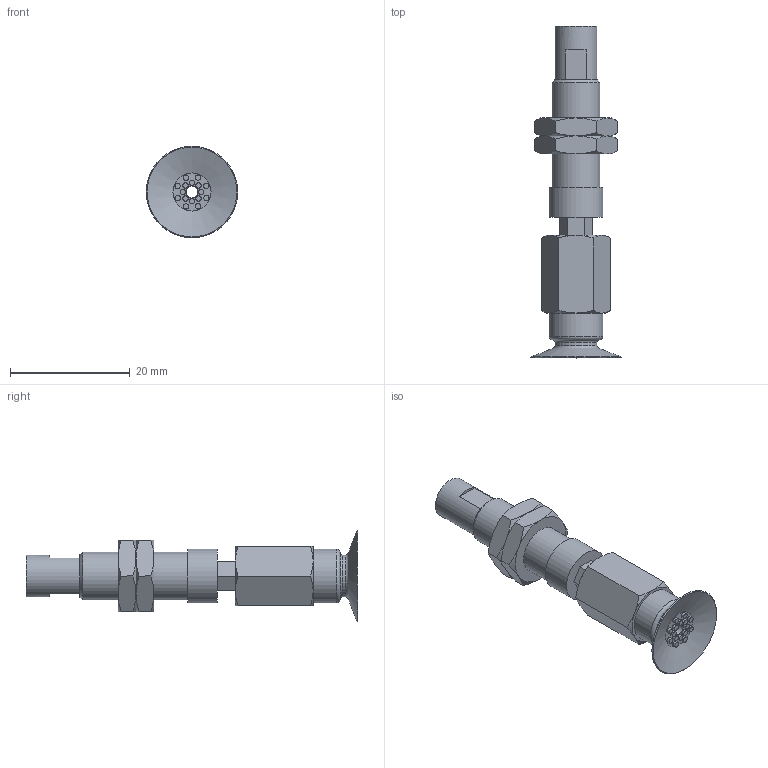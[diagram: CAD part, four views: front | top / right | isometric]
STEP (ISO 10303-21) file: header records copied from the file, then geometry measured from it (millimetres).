
FILE_DESCRIPTION(('STEP AP203'),'1');
FILE_NAME('.stp','2025-08-12T08:09:45',(' '),(' '),'Spatial InterOp 3D',' ',' ');
FILE_SCHEMA(('CONFIG_CONTROL_DESIGN'));
Length unit declared in the file: millimetre
Products named in the file (6): BNABPATH-15A-3-※; NAPATH-10A-3--F; Nut-10A-S; BPAG-15A-※; NAPATH-10A-3--M; ADAPTER
Assembly tree (6 placements, depth 2):
  BNABPATH-15A-3-※
    NAPATH-10A-3--F
    Nut-10A-S  x2
    BPAG-15A-※
    NAPATH-10A-3--M
    ADAPTER
Bounding box: 15.3 x 55.5 x 15.3 mm (x, y, z)
Volume: 3408 mm3; surface area: 4168.1 mm2
Topology: 6 solids, 6 shells, 154 faces, 311 edges, 192 vertices
Faces by surface type: plane 69, cone 45, cylinder 31, torus 9
Full cylindrical faces by diameter (mm): 0.9 x16, 2 x3, 4 x2, 4.134 x1, 6 x2, 7 x2, 7.188 x2, 8 x1, 9 x2
Entity records: 3600 total; most frequent: CARTESIAN_POINT 790, DIRECTION 538, ORIENTED_EDGE 416, AXIS2_PLACEMENT_3D 240, EDGE_LOOP 210, EDGE_CURVE 208, FACE_OUTER_BOUND 170, VERTEX_POINT 156
